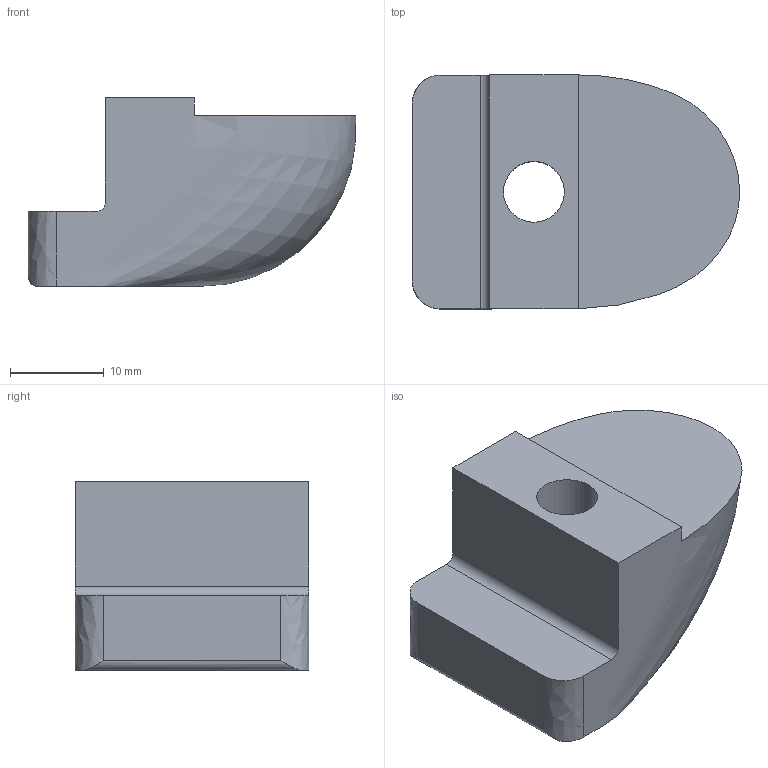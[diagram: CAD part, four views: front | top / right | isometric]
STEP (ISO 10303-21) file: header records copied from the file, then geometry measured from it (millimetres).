
FILE_DESCRIPTION (( 'STEP AP214' ), '1' );
FILE_NAME ('L19133A.step', '2024-12-03T16:22:29', ( '' ), ( '' ), 'SwSTEP 2.0', 'SolidWorks 2023', '' );
FILE_SCHEMA (( 'AUTOMOTIVE_DESIGN' ));
Length unit declared in the file: millimetre
Products named in the file (1): L19133A
Bounding box: 35 x 25 x 20.15 mm (x, y, z)
Volume: 9949.4 mm3; surface area: 3540 mm2
Topology: 1 solids, 1 shells, 22 faces, 59 edges, 39 vertices
Faces by surface type: plane 15, bspline 4, cylinder 3
Full cylindrical faces by diameter (mm): 6.5 x1
Entity records: 1290 total; most frequent: CARTESIAN_POINT 742, ORIENTED_EDGE 114, DIRECTION 97, EDGE_CURVE 57, VERTEX_POINT 38, VECTOR 35, LINE 35, AXIS2_PLACEMENT_3D 31
